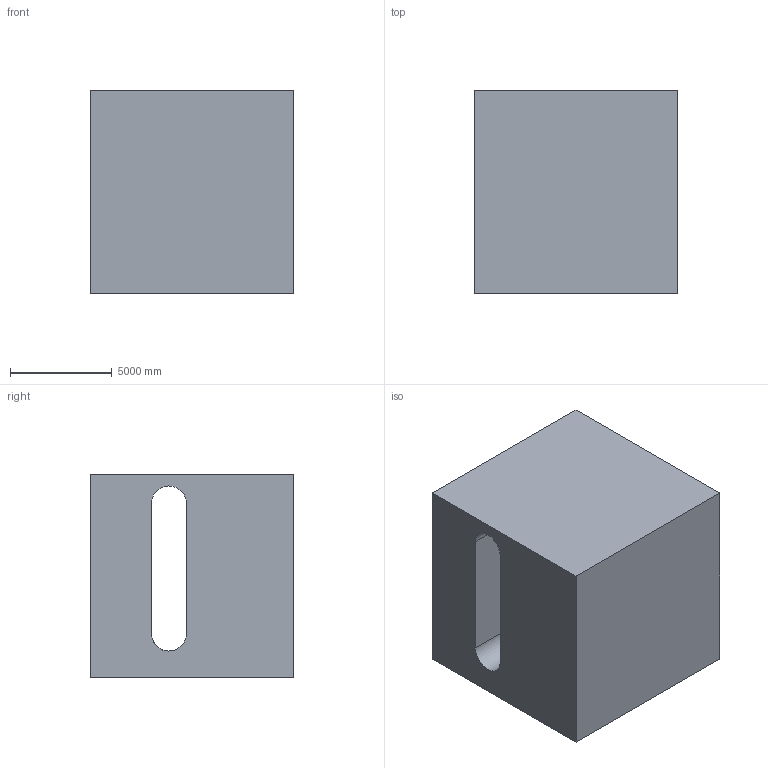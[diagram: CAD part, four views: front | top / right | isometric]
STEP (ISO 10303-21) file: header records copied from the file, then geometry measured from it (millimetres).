
FILE_DESCRIPTION (( 'STEP AP203' ), '1' );
FILE_NAME ('7.STEP', '2022-08-31T11:08:28', ( 'user' ), ( '' ), 'SwSTEP 2.0', 'SolidWorks 2021', '' );
FILE_SCHEMA (( 'CONFIG_CONTROL_DESIGN' ));
Length unit declared in the file: centimetre
Products named in the file (1): 7
Bounding box: 10000 x 10000 x 10000 mm (x, y, z)
Volume: 859236347406.7 mm3; surface area: 771184517.7 mm2
Topology: 1 solids, 1 shells, 18 faces, 51 edges, 34 vertices
Faces by surface type: plane 10, cylinder 8
Entity records: 1072 total; most frequent: CARTESIAN_POINT 516, ORIENTED_EDGE 102, DIRECTION 95, EDGE_CURVE 51, VERTEX_POINT 34, LINE 33, VECTOR 33, AXIS2_PLACEMENT_3D 31
